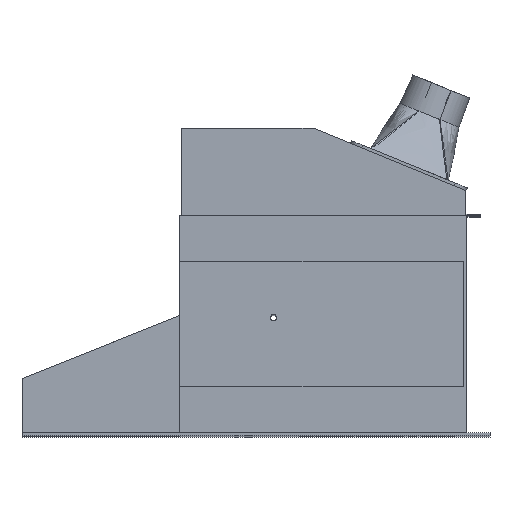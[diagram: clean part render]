
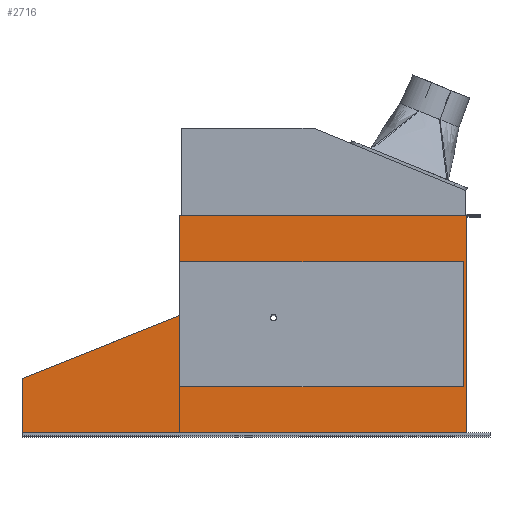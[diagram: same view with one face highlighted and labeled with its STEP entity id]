
A CAD part, top view. The second image highlights one B-rep face of the part: STEP entity #2716.
In plain terms, the highlighted planar face has unit normal (0, 0, 1).
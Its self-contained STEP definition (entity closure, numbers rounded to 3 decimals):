
#322 = EDGE_CURVE ( 'NONE', #17725, #20742, #24339, .T. ) ;
#1150 = LINE ( 'NONE', #30239, #26299 ) ;
#2716 = ADVANCED_FACE ( 'NONE', ( #33520 ), #38804, .T. ) ;
#3569 = VERTEX_POINT ( 'NONE', #20799 ) ;
#4860 = VECTOR ( 'NONE', #56010, 1000. ) ;
#6449 = EDGE_CURVE ( 'NONE', #34318, #60718, #13846, .T. ) ;
#7017 = VERTEX_POINT ( 'NONE', #45195 ) ;
#8789 = DIRECTION ( 'NONE',  ( 1., 0., 0. ) ) ;
#9832 = CARTESIAN_POINT ( 'NONE',  ( 337.485, -171.895, 443. ) ) ;
#10394 = ORIENTED_EDGE ( 'NONE', *, *, #6449, .F. ) ;
#10754 = VECTOR ( 'NONE', #20783, 1000. ) ;
#10979 = VECTOR ( 'NONE', #15612, 1000. ) ;
#11169 = VERTEX_POINT ( 'NONE', #31103 ) ;
#11955 = ORIENTED_EDGE ( 'NONE', *, *, #322, .T. ) ;
#12039 = EDGE_CURVE ( 'NONE', #55838, #34192, #32956, .T. ) ;
#12190 = AXIS2_PLACEMENT_3D ( 'NONE', #39669, #37151, #36931 ) ;
#12275 = VECTOR ( 'NONE', #35398, 1000. ) ;
#12506 = DIRECTION ( 'NONE',  ( 0., -1., 0. ) ) ;
#13550 = CARTESIAN_POINT ( 'NONE',  ( 331.485, -97.895, 443. ) ) ;
#13710 = ORIENTED_EDGE ( 'NONE', *, *, #41193, .F. ) ;
#13846 = LINE ( 'NONE', #15095, #12275 ) ;
#15095 = CARTESIAN_POINT ( 'NONE',  ( 359.485, 0., 443. ) ) ;
#15124 = VECTOR ( 'NONE', #40056, 1000. ) ;
#15497 = CARTESIAN_POINT ( 'NONE',  ( -22.521, 56.303, 443. ) ) ;
#15612 = DIRECTION ( 'NONE',  ( -0.928, -0.371, 0. ) ) ;
#17725 = VERTEX_POINT ( 'NONE', #25550 ) ;
#18236 = LINE ( 'NONE', #51099, #4860 ) ;
#18960 = ORIENTED_EDGE ( 'NONE', *, *, #44512, .T. ) ;
#19657 = VECTOR ( 'NONE', #43855, 1000. ) ;
#20742 = VERTEX_POINT ( 'NONE', #26334 ) ;
#20783 = DIRECTION ( 'NONE',  ( 1., 0., 0. ) ) ;
#20799 = CARTESIAN_POINT ( 'NONE',  ( -122.515, 102.105, 443. ) ) ;
#21079 = VECTOR ( 'NONE', #12506, 1000. ) ;
#21594 = VECTOR ( 'NONE', #8789, 1000. ) ;
#21676 = CARTESIAN_POINT ( 'NONE',  ( 331.485, 102.105, 443. ) ) ;
#23326 = VECTOR ( 'NONE', #41672, 1000. ) ;
#23542 = ORIENTED_EDGE ( 'NONE', *, *, #24622, .F. ) ;
#24185 = CARTESIAN_POINT ( 'NONE',  ( 331.485, -97.895, 443. ) ) ;
#24339 = LINE ( 'NONE', #15497, #10979 ) ;
#24622 = EDGE_CURVE ( 'NONE', #55454, #7017, #31978, .T. ) ;
#25429 = CARTESIAN_POINT ( 'NONE',  ( 359.485, 176.605, 443. ) ) ;
#25506 = EDGE_CURVE ( 'NONE', #55838, #60718, #36555, .T. ) ;
#25550 = CARTESIAN_POINT ( 'NONE',  ( -122.515, 16.305, 443. ) ) ;
#26299 = VECTOR ( 'NONE', #40338, 1000. ) ;
#26334 = CARTESIAN_POINT ( 'NONE',  ( -375.515, -84.895, 443. ) ) ;
#26746 = DIRECTION ( 'NONE',  ( -1., 0., 0. ) ) ;
#27398 = LINE ( 'NONE', #21676, #52052 ) ;
#28059 = CARTESIAN_POINT ( 'NONE',  ( 359.485, 174.896, 443. ) ) ;
#28150 = EDGE_CURVE ( 'NONE', #17725, #33929, #1150, .T. ) ;
#28363 = ORIENTED_EDGE ( 'NONE', *, *, #38751, .T. ) ;
#29255 = CARTESIAN_POINT ( 'NONE',  ( 337.485, 174.896, 443. ) ) ;
#30239 = CARTESIAN_POINT ( 'NONE',  ( -122.515, -97.895, 443. ) ) ;
#31103 = CARTESIAN_POINT ( 'NONE',  ( -375.515, -171.895, 443. ) ) ;
#31188 = CARTESIAN_POINT ( 'NONE',  ( -122.515, -97.895, 443. ) ) ;
#31978 = LINE ( 'NONE', #13550, #33506 ) ;
#32418 = CARTESIAN_POINT ( 'NONE',  ( -375.515, 0., 443. ) ) ;
#32956 = LINE ( 'NONE', #33998, #19657 ) ;
#33506 = VECTOR ( 'NONE', #43301, 1000. ) ;
#33520 = FACE_OUTER_BOUND ( 'NONE', #44988, .T. ) ;
#33929 = VERTEX_POINT ( 'NONE', #31188 ) ;
#33998 = CARTESIAN_POINT ( 'NONE',  ( 337.485, 0., 443. ) ) ;
#34192 = VERTEX_POINT ( 'NONE', #9832 ) ;
#34300 = CARTESIAN_POINT ( 'NONE',  ( 331.485, -97.895, 443. ) ) ;
#34318 = VERTEX_POINT ( 'NONE', #25429 ) ;
#34343 = LINE ( 'NONE', #32418, #21079 ) ;
#34577 = ORIENTED_EDGE ( 'NONE', *, *, #12039, .F. ) ;
#35293 = ORIENTED_EDGE ( 'NONE', *, *, #57645, .F. ) ;
#35398 = DIRECTION ( 'NONE',  ( 0., -1., 0. ) ) ;
#35495 = EDGE_CURVE ( 'NONE', #20742, #11169, #34343, .T. ) ;
#36409 = LINE ( 'NONE', #24185, #21594 ) ;
#36555 = LINE ( 'NONE', #36783, #23326 ) ;
#36783 = CARTESIAN_POINT ( 'NONE',  ( 0., 174.896, 443. ) ) ;
#36931 = DIRECTION ( 'NONE',  ( 1., 0., 0. ) ) ;
#37151 = DIRECTION ( 'NONE',  ( 0., 0., 1. ) ) ;
#38751 = EDGE_CURVE ( 'NONE', #11169, #34192, #50402, .T. ) ;
#38804 = PLANE ( 'NONE',  #12190 ) ;
#39669 = CARTESIAN_POINT ( 'NONE',  ( 0., 0., 443. ) ) ;
#40056 = DIRECTION ( 'NONE',  ( 0., -1., 0. ) ) ;
#40338 = DIRECTION ( 'NONE',  ( 0., -1., 0. ) ) ;
#41084 = CARTESIAN_POINT ( 'NONE',  ( -122.515, 176.605, 443. ) ) ;
#41193 = EDGE_CURVE ( 'NONE', #33929, #55454, #36409, .T. ) ;
#41355 = ORIENTED_EDGE ( 'NONE', *, *, #28150, .F. ) ;
#41672 = DIRECTION ( 'NONE',  ( 1., 0., 0. ) ) ;
#43301 = DIRECTION ( 'NONE',  ( 0., 1., 0. ) ) ;
#43855 = DIRECTION ( 'NONE',  ( 0., -1., 0. ) ) ;
#44512 = EDGE_CURVE ( 'NONE', #54071, #3569, #54611, .T. ) ;
#44988 = EDGE_LOOP ( 'NONE', ( #63037, #28363, #34577, #54584, #10394, #49867, #18960, #35293, #23542, #13710, #41355, #11955 ) ) ;
#45016 = CARTESIAN_POINT ( 'NONE',  ( -122.515, 0., 443. ) ) ;
#45195 = CARTESIAN_POINT ( 'NONE',  ( 331.485, 102.105, 443. ) ) ;
#49867 = ORIENTED_EDGE ( 'NONE', *, *, #53143, .F. ) ;
#50402 = LINE ( 'NONE', #61548, #10754 ) ;
#51099 = CARTESIAN_POINT ( 'NONE',  ( 0., 176.605, 443. ) ) ;
#52052 = VECTOR ( 'NONE', #26746, 1000. ) ;
#53143 = EDGE_CURVE ( 'NONE', #54071, #34318, #18236, .T. ) ;
#54071 = VERTEX_POINT ( 'NONE', #41084 ) ;
#54584 = ORIENTED_EDGE ( 'NONE', *, *, #25506, .T. ) ;
#54611 = LINE ( 'NONE', #45016, #15124 ) ;
#55454 = VERTEX_POINT ( 'NONE', #34300 ) ;
#55838 = VERTEX_POINT ( 'NONE', #29255 ) ;
#56010 = DIRECTION ( 'NONE',  ( 1., 0., 0. ) ) ;
#57645 = EDGE_CURVE ( 'NONE', #7017, #3569, #27398, .T. ) ;
#60718 = VERTEX_POINT ( 'NONE', #28059 ) ;
#61548 = CARTESIAN_POINT ( 'NONE',  ( 0., -171.895, 443. ) ) ;
#63037 = ORIENTED_EDGE ( 'NONE', *, *, #35495, .T. ) ;
